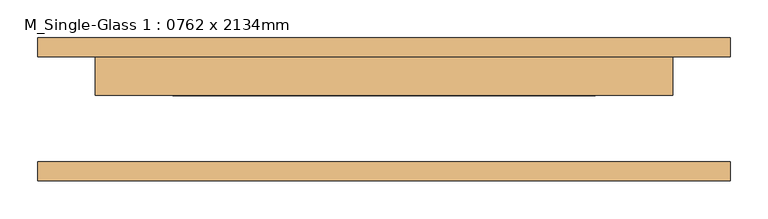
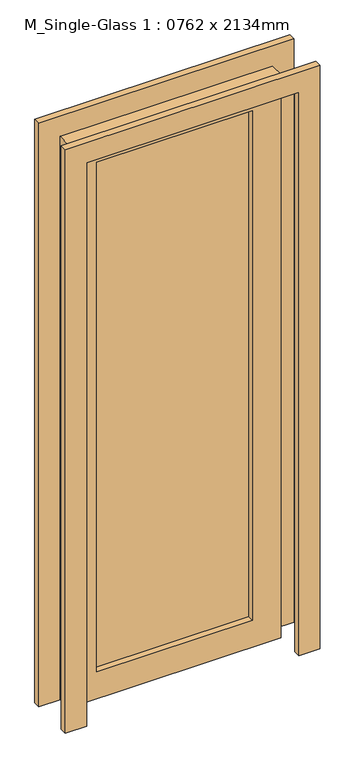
"""IFC4 building model written with IfcOpenShell, lengths in millimetres: door geometry, M_Single-Glass 1 : 0762 x 2134mm."""

import ifcopenshell
import ifcopenshell.guid

model = None  # the IFC model being written
_history = None  # IfcOwnerHistory: only IFC2X3 demands one
_inside = {}  # id of a spatial element -> (the spatial element, [elements in it])
_under = {}  # id of a project, library or spatial element -> (it, [spatial elements below it])
_declared = {}  # id of a project -> (the project, [libraries it declares])
_typed = {}  # id of a type object -> (the type object, [elements of that type])
_made_of = {}  # id of a material, layer set ... -> (it, [elements and type objects made of it])


def new_model(schema):
    """Start an empty IFC model of exactly this schema.

    Asked for "IFC4X3", IfcOpenShell would pick the latest addendum, in which some entities
    have other attributes; the version numbers below select the first issue.
    IFC2X3 requires an IfcOwnerHistory on every rooted entity: one is made here for all.
    """
    global model, _history
    if schema == "IFC4X3":
        model = ifcopenshell.file(schema_version=(4, 3, 0, 0))
    else:
        model = ifcopenshell.file(schema=schema)
    _inside.clear()
    _under.clear()
    _declared.clear()
    _typed.clear()
    _made_of.clear()
    _history = None
    if model.schema == "IFC2X3":
        org = make("IfcOrganization", Name="unknown")
        user = make(
            "IfcPersonAndOrganization",
            ThePerson=make("IfcPerson", FamilyName="unknown"),
            TheOrganization=org,
        )
        app = make(
            "IfcApplication",
            ApplicationDeveloper=org,
            Version="unknown",
            ApplicationFullName="unknown",
            ApplicationIdentifier="unknown",
        )
        _history = make(
            "IfcOwnerHistory",
            OwningUser=user,
            OwningApplication=app,
            ChangeAction="ADDED",
            CreationDate=0,
        )
    return model


def make(cls, **values):
    """One entity of the class cls with the attributes given. An attribute that is None is left unset."""
    return model.create_entity(
        cls, **{name: value for name, value in values.items() if value is not None}
    )


def rooted(cls, **values):
    """An entity with a GlobalId (a new one), such as an element, a storey or a relation."""
    return make(cls, GlobalId=ifcopenshell.guid.new(), OwnerHistory=_history, **values)


def si_unit(unit_type, name, prefix=None):
    """IfcSIUnit, for example si_unit("LENGTHUNIT", "METRE", prefix="MILLI")."""
    return make("IfcSIUnit", UnitType=unit_type, Prefix=prefix, Name=name)


def assignment(units):
    """IfcUnitAssignment: the units of a project."""
    return None if units is None else make("IfcUnitAssignment", Units=units)


def point(xyz):
    """IfcCartesianPoint."""
    return None if xyz is None else make("IfcCartesianPoint", Coordinates=xyz)


def direction(xyz):
    """IfcDirection."""
    return None if xyz is None else make("IfcDirection", DirectionRatios=xyz)


def frame(location, z_axis=None, x_axis=None):
    """IfcAxis2Placement3D, a coordinate frame: its origin and axes. An axis left out is left unset."""
    return make(
        "IfcAxis2Placement3D",
        Location=point(location),
        Axis=direction(z_axis),
        RefDirection=direction(x_axis),
    )


def origin():
    """The frame at (0, 0, 0) with its axes left unset."""
    return frame((0.0, 0.0, 0.0))


def place(relative_to, where):
    """IfcLocalPlacement: puts the frame where relative to a parent placement (None: the world)."""
    return make(
        "IfcLocalPlacement", PlacementRelTo=relative_to, RelativePlacement=where
    )


def context(
    kind, dimensions, precision=None, world=None, true_north=None, identifier=None
):
    """IfcGeometricRepresentationContext, for example the 3D "Model" context."""
    return make(
        "IfcGeometricRepresentationContext",
        ContextIdentifier=identifier,
        ContextType=kind,
        CoordinateSpaceDimension=dimensions,
        Precision=precision,
        WorldCoordinateSystem=world,
        TrueNorth=true_north,
    )


def project(units=None, contexts=None):
    """IfcProject with its units and contexts."""
    return rooted(
        "IfcProject",
        Name="project",
        RepresentationContexts=contexts,
        UnitsInContext=assignment(units),
    )


def spatial(cls, under=None, at=None, **own):
    """A site, building, storey or space (cls), placed at a placement, below another one or the project."""
    s = rooted(cls, ObjectPlacement=at, **own)
    if under is not None:
        _under.setdefault(under.id(), (under, []))[1].append(s)
    return s


def polyline(points):
    """IfcPolyline through the points."""
    return make("IfcPolyline", Points=[point(p) for p in points])


def outline(outer, holes=None, kind="AREA"):
    """IfcArbitraryClosedProfileDef: a profile drawn as a closed curve; with holes, ...WithVoids."""
    if holes is None:
        return make("IfcArbitraryClosedProfileDef", ProfileType=kind, OuterCurve=outer)
    return make(
        "IfcArbitraryProfileDefWithVoids",
        ProfileType=kind,
        OuterCurve=outer,
        InnerCurves=holes,
    )


def extrude(swept, where, along, depth):
    """IfcExtrudedAreaSolid: the profile swept, set in the frame where, extruded along a direction by depth."""
    return make(
        "IfcExtrudedAreaSolid",
        SweptArea=swept,
        Position=where,
        ExtrudedDirection=direction(along),
        Depth=depth,
    )


def shape(context_of_items, identifier, shape_type, items):
    """IfcShapeRepresentation: the items that make up one representation, for example the "Body"."""
    return make(
        "IfcShapeRepresentation",
        ContextOfItems=context_of_items,
        RepresentationIdentifier=identifier,
        RepresentationType=shape_type,
        Items=items,
    )


def source(mapping_origin, context_of_items, identifier, shape_type, items):
    """IfcRepresentationMap: a shape defined once, which mapped items show again and again."""
    return make(
        "IfcRepresentationMap",
        MappingOrigin=mapping_origin,
        MappedRepresentation=shape(context_of_items, identifier, shape_type, items),
    )


def transform(
    local_origin,
    x_axis=None,
    y_axis=None,
    z_axis=None,
    scale=None,
    scale2=None,
    scale3=None,
    uniform=True,
):
    """IfcCartesianTransformationOperator3D, or its non-uniform kind. x_axis, y_axis, z_axis: its Axis1, 2, 3."""
    if uniform:
        return make(
            "IfcCartesianTransformationOperator3D",
            Axis1=direction(x_axis),
            Axis2=direction(y_axis),
            LocalOrigin=point(local_origin),
            Scale=scale,
            Axis3=direction(z_axis),
        )
    return make(
        "IfcCartesianTransformationOperator3DnonUniform",
        Axis1=direction(x_axis),
        Axis2=direction(y_axis),
        LocalOrigin=point(local_origin),
        Scale=scale,
        Axis3=direction(z_axis),
        Scale2=scale2,
        Scale3=scale3,
    )


def mapped(mapping_source, mapping_target):
    """IfcMappedItem: shows the shape of a source again, moved by a transform."""
    return make(
        "IfcMappedItem", MappingSource=mapping_source, MappingTarget=mapping_target
    )


def made_of(thing, what):
    """Note that an element or type object is made of a material, layer set ...; save() writes the relation."""
    if what is not None:
        _made_of.setdefault(what.id(), (what, []))[1].append(thing)
    return thing


def element(
    cls,
    number,
    at=None,
    inside=None,
    cuts=None,
    type_object=None,
    material=None,
    context=None,
    identifier="Body",
    shape_type=None,
    held_by="IfcProductDefinitionShape",
    body=None,
    shapes=None,
    **own,
):
    """One element of the class cls, such as IfcWall. Its Tag is "e" and its number.

    at: its placement. inside: the storey or other place that contains it. cuts: it is an
    opening in that element (IfcRelVoidsElement). A single representation is given by context,
    identifier, shape_type and body (its items); several are given by shapes. held_by: the class
    of the entity that holds the representations. save() writes the other relations.
    """
    e = rooted(cls, Tag="e%d" % number, ObjectPlacement=at, **own)
    if body is not None:
        shapes = [shape(context, identifier, shape_type, body)]
    if shapes is not None:
        e.Representation = make(held_by, Representations=shapes)
    if inside is not None:
        _inside.setdefault(inside.id(), (inside, []))[1].append(e)
    if cuts is not None:
        rooted(
            "IfcRelVoidsElement", RelatingBuildingElement=cuts, RelatedOpeningElement=e
        )
    if type_object is not None:
        _typed.setdefault(type_object.id(), (type_object, []))[1].append(e)
    return made_of(e, material)


def aggregate(whole, parts):
    """IfcRelAggregates: a whole, such as a stair, and the parts it consists of."""
    return rooted("IfcRelAggregates", RelatingObject=whole, RelatedObjects=parts)


def save(model, path):
    """Write the relations noted so far, then the file.

    IfcRelAggregates (storeys below a building ...), IfcRelContainedInSpatialStructure (elements
    in a storey), IfcRelDefinesByType, IfcRelAssociatesMaterial and IfcRelDeclares: one each for
    every whole, place, type object, material and project.
    """
    for whole, parts in _under.values():
        aggregate(whole, parts)
    for where, things in _inside.values():
        rooted(
            "IfcRelContainedInSpatialStructure",
            RelatedElements=things,
            RelatingStructure=where,
        )
    for kind, things in _typed.values():
        rooted("IfcRelDefinesByType", RelatedObjects=things, RelatingType=kind)
    for what, things in _made_of.values():
        rooted("IfcRelAssociatesMaterial", RelatedObjects=things, RelatingMaterial=what)
    for by, libraries in _declared.values():
        rooted("IfcRelDeclares", RelatingContext=by, RelatedDefinitions=libraries)
    model.write(path)


def m_single_glass_1_0762_x_2134mm_cf50c2e0(model_context):
    return source(origin(), model_context, "Body", "SweptSolid", [
        extrude(outline(polyline([(2134.0, 381.0), (0.0, 381.0), (0.0, 457.0), (2210.0, 457.0), (2210.0, -457.0), (0.0, -457.0), (0.0, -381.0), (2134.0, -381.0), (2134.0, 381.0)])), frame((0.0, -94.25, 0.0), z_axis=(0.0, 1.0, 0.0), x_axis=(0.0, 0.0, 1.0)), (0.0, 0.0, 1.0), 25.0),
        extrude(outline(polyline([(2134.0, 381.0), (0.0, 381.0), (0.0, 457.0), (2210.0, 457.0), (2210.0, -457.0), (0.0, -457.0), (0.0, -381.0), (2134.0, -381.0), (2134.0, 381.0)])), frame((0.0, 69.25, 0.0), z_axis=(0.0, 1.0, 0.0), x_axis=(0.0, 0.0, 1.0)), (0.0, 0.0, 1.0), 25.0),
        extrude(outline(polyline([(279.0, 40.675), (-279.0, 40.675), (-279.0, 47.025), (279.0, 47.025), (279.0, 40.675)])), frame((0.0, 0.0, 102.0), z_axis=(0.0, 0.0, 1.0), x_axis=(1.0, 0.0, 0.0)), (0.0, 0.0, 1.0), 1930.0),
        extrude(outline(polyline([(2134.0, 381.0), (2134.0, -381.0), (0.0, -381.0), (0.0, 381.0), (2134.0, 381.0)]), holes=[polyline([(2032.0, -279.0), (2032.0, 279.0), (102.0, 279.0), (102.0, -279.0), (2032.0, -279.0)])]), frame((0.0, 18.25, 0.0), z_axis=(0.0, 1.0, 0.0), x_axis=(0.0, 0.0, 1.0)), (0.0, 0.0, 1.0), 51.0),
    ])


if __name__ == "__main__":
    model = new_model("IFC4")
    model_context = context("Model", 3, world=origin())
    ifc_project = project(units=[si_unit("LENGTHUNIT", "METRE", prefix="MILLI")], contexts=[model_context])
    site = spatial("IfcSite", under=ifc_project)
    building = spatial("IfcBuilding", under=site)
    placement = place(None, origin())
    m_single_glass_1_0762_x_2134mm_shape = m_single_glass_1_0762_x_2134mm_cf50c2e0(model_context)
    element("IfcDoor", 1, ObjectType="M_Single-Glass 1 : 0762 x 2134mm", at=placement, inside=building, context=model_context, shape_type="MappedRepresentation", body=[
        mapped(m_single_glass_1_0762_x_2134mm_shape, transform((0.0, 0.0, 0.0), x_axis=(1.0, 0.0, 0.0), y_axis=(0.0, 1.0, 0.0), z_axis=(0.0, 0.0, 1.0))),
    ])
    save(model, "model.ifc")
